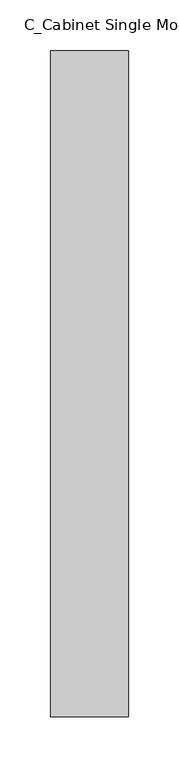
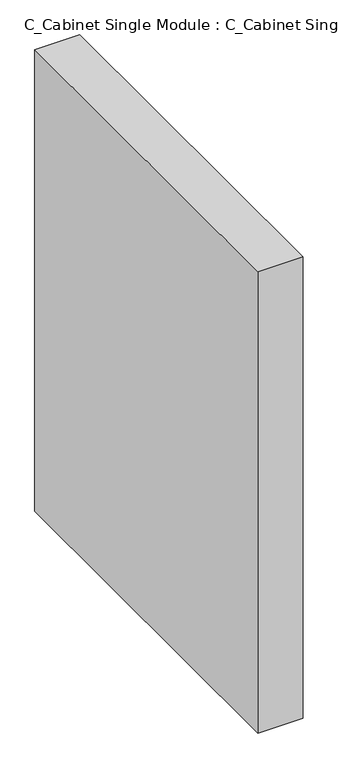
"""IFC4 building model written with IfcOpenShell, lengths in millimetres: furniture geometry, C_Cabinet Single Module : C_Cabinet Single Module."""

from ifc_helpers import new_model, si_unit, origin, origin_with_axes, place, context, project, spatial, polyline, outline, extrude, source, transform, mapped, element, save


def c_cabinet_single_module_c_cabinet_single_module_ce7187a6(model_context):
    return source(origin(), model_context, "Body", "SweptSolid", [
        extrude(outline(polyline([(38.1, 0.0), (38.1, -654.05), (-38.1, -654.05), (-38.1, 0.0), (38.1, 0.0)])), origin_with_axes(), (0.0, 0.0, 1.0), 825.5),
    ])


if __name__ == "__main__":
    model = new_model("IFC4")
    model_context = context("Model", 3, world=origin())
    ifc_project = project(units=[si_unit("LENGTHUNIT", "METRE", prefix="MILLI")], contexts=[model_context])
    site = spatial("IfcSite", under=ifc_project)
    building = spatial("IfcBuilding", under=site)
    placement = place(None, origin())
    c_cabinet_single_module_c_cabinet_single_module_shape = c_cabinet_single_module_c_cabinet_single_module_ce7187a6(model_context)
    element("IfcFurniture", 1, ObjectType="C_Cabinet Single Module : C_Cabinet Single Module", at=placement, inside=building, context=model_context, shape_type="MappedRepresentation", body=[
        mapped(c_cabinet_single_module_c_cabinet_single_module_shape, transform((0.0, 0.0, 0.0), x_axis=(1.0, 0.0, 0.0), y_axis=(0.0, 1.0, 0.0), z_axis=(0.0, 0.0, 1.0))),
    ])
    save(model, "model.ifc")
